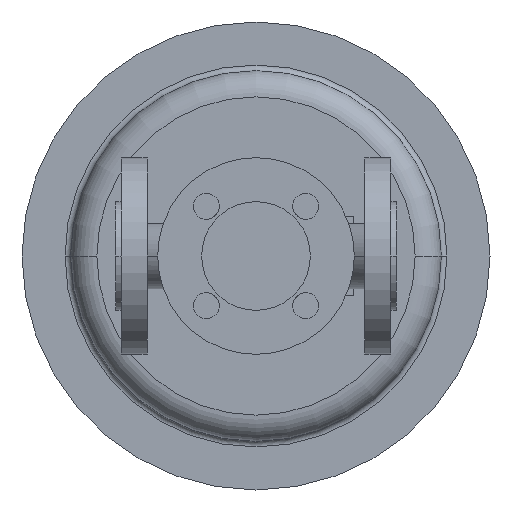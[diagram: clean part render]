
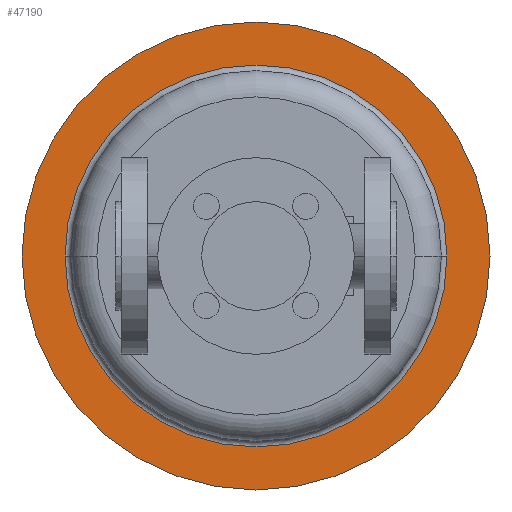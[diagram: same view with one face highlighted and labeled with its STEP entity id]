
A CAD part, front view. The second image highlights one B-rep face of the part: STEP entity #47190.
In plain terms, the highlighted planar face has unit normal (0, -1, 0).
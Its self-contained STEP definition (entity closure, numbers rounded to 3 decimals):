
#36020=CARTESIAN_POINT('',(-50.,383.,0.));
#36030=VERTEX_POINT('',#36020);
#36060=CARTESIAN_POINT('',(75.,383.,0.));
#36070=DIRECTION('',(0.,1.,0.));
#36080=DIRECTION('',(1.,0.,0.));
#36090=AXIS2_PLACEMENT_3D('',#36060,#36070,#36080);
#36100=CIRCLE('',#36090,125.);
#36110=CARTESIAN_POINT('',(200.,383.,0.));
#36120=VERTEX_POINT('',#36110);
#36130=EDGE_CURVE('',#36120,#36030,#36100,.T.);
#36450=CARTESIAN_POINT('',(177.,383.,0.));
#36460=VERTEX_POINT('',#36450);
#36630=CARTESIAN_POINT('',(-27.,383.,0.));
#36640=VERTEX_POINT('',#36630);
#36670=CARTESIAN_POINT('',(75.,383.,0.));
#36680=DIRECTION('',(0.,1.,0.));
#36690=DIRECTION('',(1.,0.,0.));
#36700=AXIS2_PLACEMENT_3D('',#36670,#36680,#36690);
#36710=CIRCLE('',#36700,102.);
#36720=EDGE_CURVE('',#36640,#36460,#36710,.T.);
#47040=CARTESIAN_POINT('',(188.5,383.,0.));
#47050=DIRECTION('',(0.,-1.,0.));
#47060=DIRECTION('',(-1.,0.,0.));
#47070=AXIS2_PLACEMENT_3D('',#47040,#47050,#47060);
#47080=PLANE('',#47070);
#47090=ORIENTED_EDGE('',*,*,#36130,.F.);
#47100=EDGE_CURVE('',#36030,#36120,#36100,.T.);
#47110=ORIENTED_EDGE('',*,*,#47100,.F.);
#47120=EDGE_LOOP('',(#47110,#47090));
#47130=FACE_OUTER_BOUND('',#47120,.T.);
#47140=EDGE_CURVE('',#36460,#36640,#36710,.T.);
#47150=ORIENTED_EDGE('',*,*,#47140,.T.);
#47160=ORIENTED_EDGE('',*,*,#36720,.T.);
#47170=EDGE_LOOP('',(#47160,#47150));
#47180=FACE_BOUND('',#47170,.T.);
#47190=ADVANCED_FACE('',(#47130,#47180),#47080,.T.);
